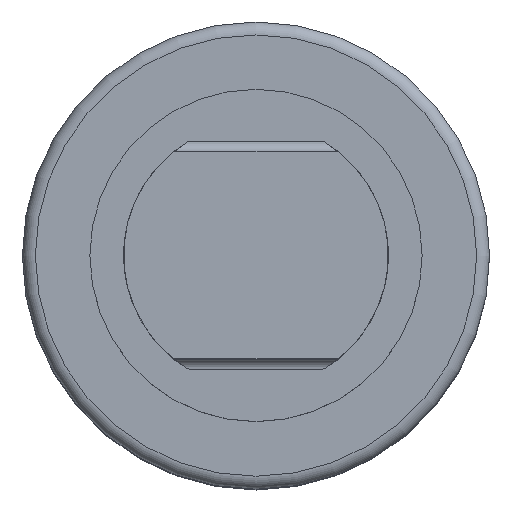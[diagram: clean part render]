
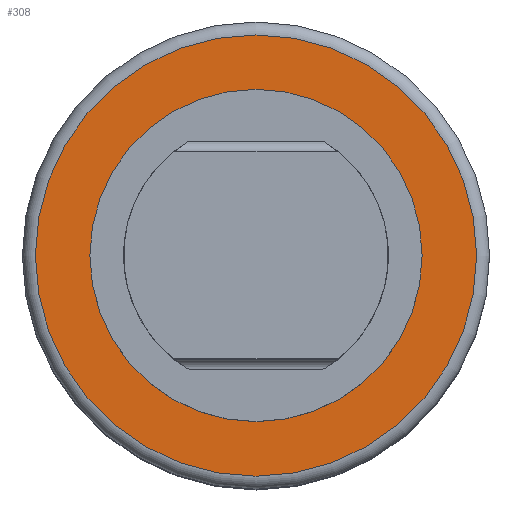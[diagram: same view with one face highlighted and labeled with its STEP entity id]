
A CAD part, top view. The second image highlights one B-rep face of the part: STEP entity #308.
In plain terms, the highlighted planar face has unit normal (0, 0, 1).
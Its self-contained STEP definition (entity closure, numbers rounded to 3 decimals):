
#308=ADVANCED_FACE('',(#2327,#2329),#2331,.T.);
#2327=FACE_BOUND('',#2328,.T.);
#2328=EDGE_LOOP('',(#16887));
#2329=FACE_BOUND('',#2330,.T.);
#2330=EDGE_LOOP('',(#16888));
#2331=PLANE('',#2332);
#2332=AXIS2_PLACEMENT_3D('',#2333,#2334,#2335);
#2333=CARTESIAN_POINT('',(0.,0.,93.5));
#2334=DIRECTION('',(0.,0.,1.));
#2335=DIRECTION('',(0.,-1.,0.));
#16887=ORIENTED_EDGE('',*,*,#17897,.F.);
#16888=ORIENTED_EDGE('',*,*,#17898,.T.);
#17897=EDGE_CURVE('',#19175,#19175,#19176,.T.);
#17898=EDGE_CURVE('',#19177,#19177,#19178,.F.);
#19175=VERTEX_POINT('',#28676);
#19176=CIRCLE('',#28677,21.25);
#19177=VERTEX_POINT('',#28681);
#19178=CIRCLE('',#28682,16.);
#28676=CARTESIAN_POINT('',(0.,-21.25,93.5));
#28677=AXIS2_PLACEMENT_3D('',#28678,#28679,#28680);
#28678=CARTESIAN_POINT('',(0.,0.,93.5));
#28679=DIRECTION('',(0.,0.,-1.));
#28680=DIRECTION('',(0.,-1.,0.));
#28681=CARTESIAN_POINT('',(16.,0.,93.5));
#28682=AXIS2_PLACEMENT_3D('',#28683,#28684,#28685);
#28683=CARTESIAN_POINT('',(0.,0.,93.5));
#28684=DIRECTION('',(0.,0.,1.));
#28685=DIRECTION('',(1.,0.,0.));
